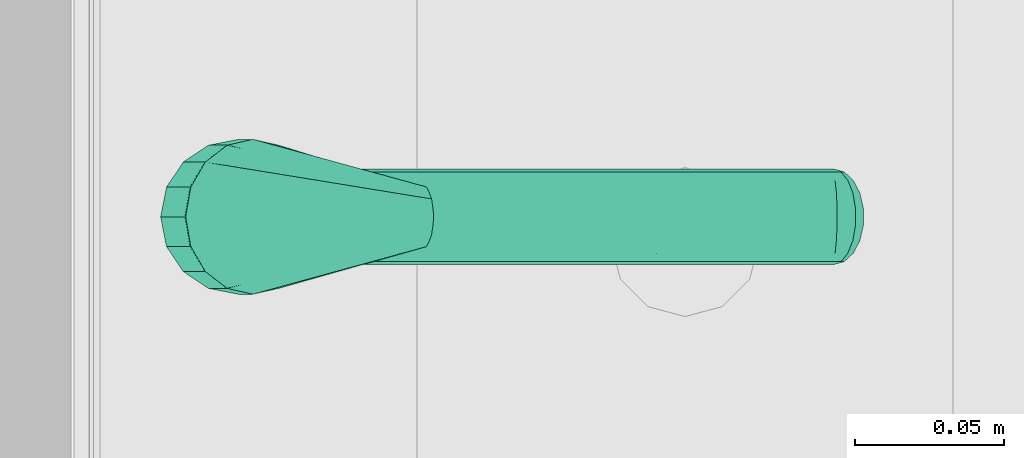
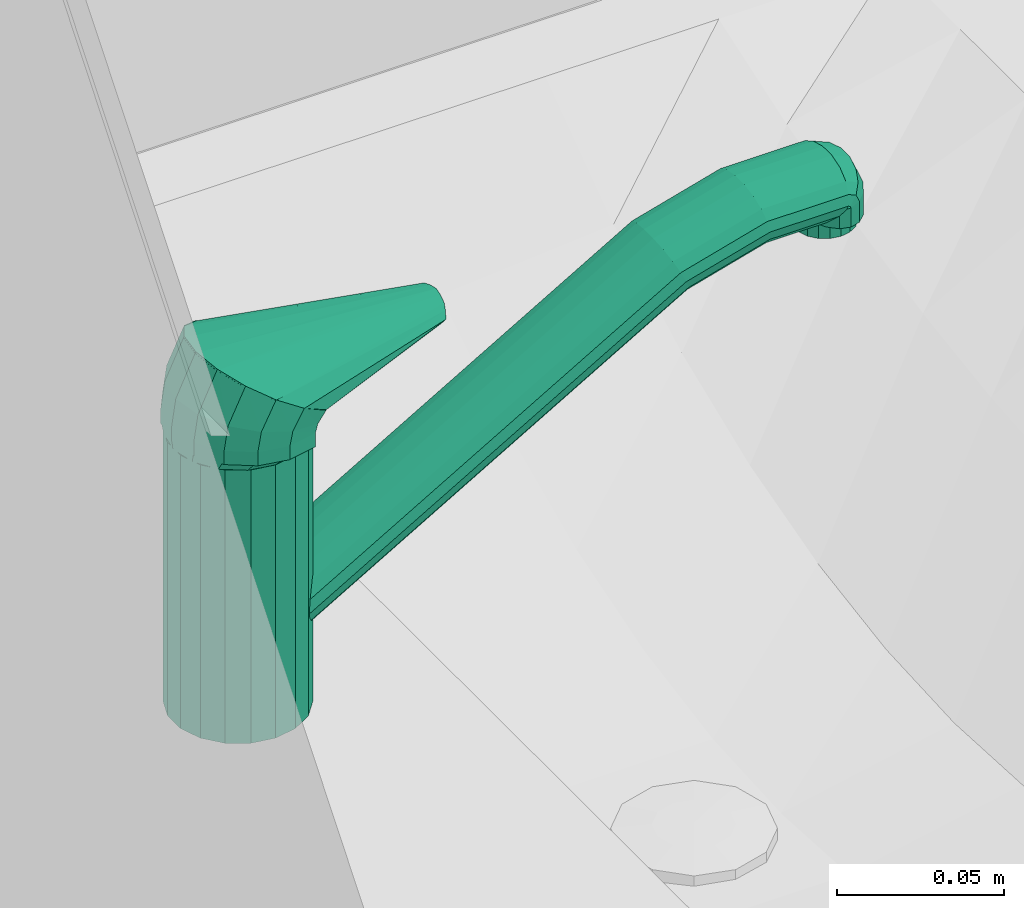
# One storey, part 79 of 127: 1 flow terminal.
"""IFC2X3 building model written with IfcOpenShell, lengths in millimetres."""

from ifc_helpers import new_model, entity, si_unit, converted_unit, derived_unit, money_unit, direction, frame, origin_with_axes, place, context, subcontext, project, spatial, open_shell, faceted_brep, surface_model, source, transform, mapped, type_object, element, save


model = new_model("IFC2X3")

# Units and contexts
model_context = context("Model", 3, precision=1e-05, world=origin_with_axes(), true_north=direction((0.0, 1.0)))
body_context = subcontext(model_context, "Body", "Model", "MODEL_VIEW")
ifc_project = project(units=[si_unit("LENGTHUNIT", "METRE", prefix="MILLI"), si_unit("AREAUNIT", "SQUARE_METRE"), si_unit("VOLUMEUNIT", "CUBIC_METRE"), converted_unit("PLANEANGLEUNIT", "DEGREE", entity("IfcPlaneAngleMeasure", 0.0174532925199), si_unit("PLANEANGLEUNIT", "RADIAN"), dimensions=[0, 0, 0, 0, 0, 0, 0]), si_unit("SOLIDANGLEUNIT", "STERADIAN"), money_unit("EUR"), converted_unit("TIMEUNIT", "Year", entity("IfcTimeMeasure", 31556926.0), si_unit("TIMEUNIT", "SECOND"), dimensions=[0, 0, 1, 0, 0, 0, 0]), si_unit("MASSUNIT", "GRAM", prefix="KILO"), si_unit("THERMODYNAMICTEMPERATUREUNIT", "DEGREE_CELSIUS"), si_unit("LUMINOUSINTENSITYUNIT", "LUMEN"), si_unit("ENERGYUNIT", "JOULE", prefix="MEGA"), derived_unit("THERMALCONDUCTANCEUNIT", [(si_unit("POWERUNIT", "WATT"), 1), (si_unit("LENGTHUNIT", "METRE"), -1), (si_unit("THERMODYNAMICTEMPERATUREUNIT", "KELVIN"), -1)]), derived_unit("SPECIFICHEATCAPACITYUNIT", [(si_unit("ENERGYUNIT", "JOULE"), 1), (si_unit("MASSUNIT", "GRAM", prefix="KILO"), -1), (si_unit("THERMODYNAMICTEMPERATUREUNIT", "KELVIN"), -1)]), derived_unit("MASSDENSITYUNIT", [(si_unit("MASSUNIT", "GRAM", prefix="KILO"), 1), (si_unit("VOLUMEUNIT", "CUBIC_METRE"), -1)])], contexts=[model_context])

# Site, building, storey
site_placement = place(None, origin_with_axes())
site = spatial("IfcSite", under=ifc_project, at=site_placement, Name="Site", CompositionType="ELEMENT")
building_placement = place(site_placement, origin_with_axes())
building = spatial("IfcBuilding", under=site, at=building_placement, Name="Building", CompositionType="ELEMENT")
storey_placement = place(building_placement, origin_with_axes())
storey = spatial("IfcBuildingStorey", under=building, at=storey_placement, Name="1 KORRUS", CompositionType="ELEMENT", Elevation=0.0)

# Flow terminal
sanitary_terminal_type = type_object("IfcSanitaryTerminalType", Name="Tap 22", PredefinedType="NOTDEFINED")
shared_shape = source(origin_with_axes(), body_context, "Body", "SurfaceModel", [
    faceted_brep([(-21.1430839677, -7.69545322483, 1000.0), (-22.5, 0.0, 1000.0), (-21.1430839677, 7.69545322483, 1000.0), (-17.2359999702, 14.4627212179, 1000.0), (-11.25, 19.4855715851, 1000.0), (-3.90708399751, 22.1581744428, 1000.0), (3.90708399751, 22.1581744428, 1000.0), (11.25, 19.4855715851, 1000.0), (17.2359999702, 14.4627212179, 1000.0), (21.1430839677, 7.69545322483, 1000.0), (22.5, 0.0, 1000.0), (21.1430839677, -7.69545322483, 1000.0), (17.2359999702, -14.4627212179, 1000.0), (11.25, -19.4855715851, 1000.0), (3.90708399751, -22.1581744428, 1000.0), (-3.90708399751, -22.1581744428, 1000.0), (-11.25, -19.4855715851, 1000.0), (-17.2359999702, -14.4627212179, 1000.0), (-21.1430839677, -7.69545322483, 1010.0), (-22.5, 0.0, 1010.0), (-21.1430839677, 7.69545322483, 1010.0), (-17.2359999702, 14.4627212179, 1010.0), (-11.25, 19.4855715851, 1010.0), (-3.90708399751, 22.1581744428, 1010.0), (3.90708399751, 22.1581744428, 1010.0), (11.25, 19.4855715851, 1010.0), (17.2359999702, 14.4627212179, 1010.0), (21.1430839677, 7.69545322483, 1010.0), (22.5, 0.0, 1010.0), (21.1430839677, -7.69545322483, 1010.0), (17.2359999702, -14.4627212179, 1010.0), (11.25, -19.4855715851, 1010.0), (3.90708399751, -22.1581744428, 1010.0), (-3.90708399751, -22.1581744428, 1010.0), (-11.25, -19.4855715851, 1010.0), (-17.2359999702, -14.4627212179, 1010.0)], [[[0, 1, 2, 3, 4, 5, 6, 7, 8, 9, 10, 11, 12, 13, 14, 15, 16, 17]], [[0, 18, 19, 1]], [[1, 19, 20, 2]], [[2, 20, 21, 3]], [[3, 21, 22, 4]], [[4, 22, 23, 5]], [[5, 23, 24, 6]], [[6, 24, 25, 7]], [[7, 25, 26, 8]], [[8, 26, 27, 9]], [[9, 27, 28, 10]], [[10, 28, 29, 11]], [[11, 29, 30, 12]], [[12, 30, 31, 13]], [[13, 31, 32, 14]], [[14, 32, 33, 15]], [[15, 33, 34, 16]], [[16, 34, 35, 17]], [[17, 35, 18, 0]], [[18, 35, 34, 33, 32, 31, 30, 29, 28, 27, 26, 25, 24, 23, 22, 21, 20, 19]]]),
    faceted_brep([(-21.1430839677, -7.69545322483, 1010.0), (-22.5, 0.0, 1010.0), (-21.1430839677, 7.69545322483, 1010.0), (-17.2359999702, 14.4627212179, 1010.0), (-11.25, 19.4855715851, 1010.0), (-3.90708399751, 22.1581744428, 1010.0), (3.90708399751, 22.1581744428, 1010.0), (11.25, 19.4855715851, 1010.0), (17.2359999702, 14.4627212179, 1010.0), (21.1430839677, 7.69545322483, 1010.0), (22.5, 0.0, 1010.0), (21.1430839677, -7.69545322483, 1010.0), (17.2359999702, -14.4627212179, 1010.0), (11.25, -19.4855715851, 1010.0), (3.90708399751, -22.1581744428, 1010.0), (-3.90708399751, -22.1581744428, 1010.0), (-11.25, -19.4855715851, 1010.0), (-17.2359999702, -14.4627212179, 1010.0), (-21.1430839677, -7.69545322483, 1055.0), (-22.5, 0.0, 1055.0), (-21.1430839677, 7.69545322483, 1055.0), (-17.2359999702, 14.4627212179, 1055.0), (-11.25, 19.4855715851, 1055.0), (-3.90708399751, 22.1581744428, 1055.0), (3.90708399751, 22.1581744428, 1055.0), (11.25, 19.4855715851, 1055.0), (17.2359999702, 14.4627212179, 1055.0), (21.1430839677, 7.69545322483, 1055.0), (22.5, 0.0, 1055.0), (21.1430839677, -7.69545322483, 1055.0), (17.2359999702, -14.4627212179, 1055.0), (11.25, -19.4855715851, 1055.0), (3.90708399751, -22.1581744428, 1055.0), (-3.90708399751, -22.1581744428, 1055.0), (-11.25, -19.4855715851, 1055.0), (-17.2359999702, -14.4627212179, 1055.0)], [[[0, 1, 2, 3, 4, 5, 6, 7, 8, 9, 10, 11, 12, 13, 14, 15, 16, 17]], [[0, 18, 19, 1]], [[1, 19, 20, 2]], [[2, 20, 21, 3]], [[3, 21, 22, 4]], [[4, 22, 23, 5]], [[5, 23, 24, 6]], [[6, 24, 25, 7]], [[7, 25, 26, 8]], [[8, 26, 27, 9]], [[9, 27, 28, 10]], [[10, 28, 29, 11]], [[11, 29, 30, 12]], [[12, 30, 31, 13]], [[13, 31, 32, 14]], [[14, 32, 33, 15]], [[15, 33, 34, 16]], [[16, 34, 35, 17]], [[17, 35, 18, 0]], [[18, 35, 34, 33, 32, 31, 30, 29, 28, 27, 26, 25, 24, 23, 22, 21, 20, 19]]]),
    faceted_brep([(-21.1430839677, -7.69545322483, 1055.0), (-22.5, 0.0, 1055.0), (-21.1430839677, 7.69545322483, 1055.0), (-17.2359999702, 14.4627212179, 1055.0), (-11.25, 19.4855715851, 1055.0), (-3.90708399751, 22.1581744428, 1055.0), (3.90708399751, 22.1581744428, 1055.0), (11.25, 19.4855715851, 1055.0), (17.2359999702, 14.4627212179, 1055.0), (21.1430839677, 7.69545322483, 1055.0), (22.5, 0.0, 1055.0), (21.1430839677, -7.69545322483, 1055.0), (17.2359999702, -14.4627212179, 1055.0), (11.25, -19.4855715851, 1055.0), (3.90708399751, -22.1581744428, 1055.0), (-3.90708399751, -22.1581744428, 1055.0), (-11.25, -19.4855715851, 1055.0), (-17.2359999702, -14.4627212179, 1055.0), (-21.1430839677, -7.69545322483, 1100.0), (-22.5, 0.0, 1100.0), (-21.1430839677, 7.69545322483, 1100.0), (-17.2359999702, 14.4627212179, 1100.0), (-11.25, 19.4855715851, 1100.0), (-3.90708399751, 22.1581744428, 1100.0), (3.90708399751, 22.1581744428, 1100.0), (11.25, 19.4855715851, 1100.0), (17.2359999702, 14.4627212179, 1100.0), (21.1430839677, 7.69545322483, 1100.0), (22.5, 0.0, 1100.0), (21.1430839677, -7.69545322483, 1100.0), (17.2359999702, -14.4627212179, 1100.0), (11.25, -19.4855715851, 1100.0), (3.90708399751, -22.1581744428, 1100.0), (-3.90708399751, -22.1581744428, 1100.0), (-11.25, -19.4855715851, 1100.0), (-17.2359999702, -14.4627212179, 1100.0)], [[[0, 1, 2, 3, 4, 5, 6, 7, 8, 9, 10, 11, 12, 13, 14, 15, 16, 17]], [[0, 18, 19, 1]], [[1, 19, 20, 2]], [[2, 20, 21, 3]], [[3, 21, 22, 4]], [[4, 22, 23, 5]], [[5, 23, 24, 6]], [[6, 24, 25, 7]], [[7, 25, 26, 8]], [[8, 26, 27, 9]], [[9, 27, 28, 10]], [[10, 28, 29, 11]], [[11, 29, 30, 12]], [[12, 30, 31, 13]], [[13, 31, 32, 14]], [[14, 32, 33, 15]], [[15, 33, 34, 16]], [[16, 34, 35, 17]], [[17, 35, 18, 0]], [[18, 35, 34, 33, 32, 31, 30, 29, 28, 27, 26, 25, 24, 23, 22, 21, 20, 19]]]),
    surface_model("IfcShellBasedSurfaceModel", [(-20.7872894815, -8.61037722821, 1100.0), (-24.0208678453, -12.9497692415, 1104.5), (-26.0, -3.0, 1104.5), (-22.5, 0.0, 1100.0), (-15.9099025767, -15.9099025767, 1100.0), (-24.0208678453, -12.9497692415, 1104.5), (-24.0208678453, 6.94976924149, 1104.5), (-20.7872894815, 8.61037722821, 1100.0), (-8.61037722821, -20.7872894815, 1100.0), (-18.3847763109, 15.3847763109, 1104.5), (-15.9099025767, 15.9099025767, 1100.0), (0.0, -25.1, 1104.5), (-9.94976924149, 21.0208678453, 1104.5), (-8.61037722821, 20.7872894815, 1100.0), (0.0, -22.5, 1100.0), (0.0, 23.0, 1104.5), (0.0, 22.5, 1100.0), (8.61037722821, -20.7872894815, 1100.0), (9.94976924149, 21.0208678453, 1104.5), (8.61037722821, 20.7872894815, 1100.0), (15.9099025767, -15.9099025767, 1100.0), (18.3847763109, 15.3847763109, 1104.5), (15.9099025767, 15.9099025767, 1100.0), (24.0208678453, -12.9497692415, 1104.5), (24.0208678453, 6.94976924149, 1104.5), (20.7872894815, 8.61037722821, 1100.0), (20.7872894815, -8.61037722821, 1100.0), (26.0, -3.0, 1104.5), (22.5, 0.0, 1100.0)], [open_shell([[[0, 1, 2, 3]], [[4, 5, 1, 0]], [[3, 2, 6, 7]], [[8, 5, 4]], [[7, 6, 9, 10]], [[8, 11, 5]], [[10, 9, 12, 13]], [[14, 11, 8]], [[13, 12, 15, 16]], [[17, 11, 14]], [[16, 15, 18, 19]], [[20, 11, 17]], [[19, 18, 21, 22]], [[20, 23, 11]], [[22, 21, 24, 25]], [[26, 23, 20]], [[25, 24, 27, 28]], [[28, 27, 23, 26]]])]),
    surface_model("IfcShellBasedSurfaceModel", [(-24.0208678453, -12.9497692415, 1103.0), (-24.0208678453, -12.9497692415, 1108.0), (-26.0, -3.0, 1108.0), (-24.0208678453, -12.9497692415, 1103.0), (-26.0, -4.0, 1113.0), (-26.0, -3.0, 1103.0), (-24.0208678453, -12.9497692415, 1108.0), (-24.0208678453, 5.75655144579, 1114.95131029), (-24.0208678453, -13.7565514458, 1111.04868971), (-24.0208678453, 6.94976924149, 1108.0), (0.0, -25.1, 1103.0), (-24.0208678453, 0.638818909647, 1124.93646795), (-26.0, -8.0, 1120.0), (-24.0208678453, 6.94976924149, 1103.0), (0.0, -25.1, 1108.0), (-24.0208678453, -13.7565514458, 1111.04868971), (-18.3847763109, 7.96245595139, 1129.1214034), (-18.3847763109, 14.0277563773, 1116.60555128), (-24.0208678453, -16.6388189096, 1115.06353205), (-18.3847763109, 15.3847763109, 1108.0), (24.0208678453, -12.9497692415, 1103.0), (-18.3847763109, 15.3847763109, 1103.0), (24.0208678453, -12.9497692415, 1108.0), (0.0, -25.6708329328, 1108.66583341), (-24.0208678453, -16.6388189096, 1115.06353205), (-9.94976924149, 12.8559537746, 1131.91768787), (-9.94976924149, 19.5543988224, 1117.71087976), (-9.94976924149, 21.0208678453, 1108.0), (26.0, -3.0, 1103.0), (-9.94976924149, 21.0208678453, 1103.0), (26.0, -3.0, 1108.0), (24.0208678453, -13.7565514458, 1111.04868971), (0.0, -27.188173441, 1109.03532946), (0.0, 14.5743216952, 1132.8996124), (0.0, 21.495097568, 1118.09901951), (0.0, 23.0, 1108.0), (24.0208678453, 6.94976924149, 1103.0), (0.0, 23.0, 1103.0), (24.0208678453, 6.94976924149, 1108.0), (26.0, -4.0, 1113.0), (24.0208678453, -16.6388189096, 1115.06353205), (9.94976924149, 12.8559537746, 1131.91768787), (9.94976924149, 19.5543988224, 1117.71087976), (9.94976924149, 21.0208678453, 1108.0), (18.3847763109, 15.3847763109, 1103.0), (9.94976924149, 21.0208678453, 1103.0), (18.3847763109, 15.3847763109, 1108.0), (24.0208678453, 5.75655144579, 1114.95131029), (26.0, -8.0, 1120.0), (18.3847763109, 7.96245595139, 1129.1214034), (18.3847763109, 14.0277563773, 1116.60555128), (24.0208678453, 0.638818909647, 1124.93646795)], [open_shell([[[0, 1, 2]], [[1, 0, 3]], [[4, 2, 1]], [[2, 5, 0]], [[3, 6, 1]], [[2, 4, 7]], [[1, 8, 4]], [[5, 2, 9]], [[6, 3, 10]], [[8, 1, 6]], [[11, 7, 4]], [[7, 9, 2]], [[12, 4, 8]], [[9, 13, 5]], [[10, 14, 6]], [[6, 15, 8]], [[7, 11, 16]], [[4, 12, 11]], [[9, 7, 17]], [[8, 18, 12]], [[13, 9, 19]], [[14, 10, 20]], [[15, 6, 14]], [[18, 8, 15]], [[16, 17, 7]], [[17, 19, 9]], [[19, 21, 13]], [[20, 22, 14]], [[14, 23, 15]], [[15, 24, 18]], [[17, 16, 25]], [[19, 17, 26]], [[21, 19, 27]], [[22, 20, 28]], [[23, 14, 22]], [[24, 15, 23]], [[25, 26, 17]], [[26, 27, 19]], [[27, 29, 21]], [[28, 30, 22]], [[22, 31, 23]], [[23, 32, 24]], [[26, 25, 33]], [[27, 26, 34]], [[29, 27, 35]], [[30, 28, 36]], [[31, 22, 30]], [[32, 23, 31]], [[33, 34, 26]], [[34, 35, 27]], [[35, 37, 29]], [[36, 38, 30]], [[30, 39, 31]], [[31, 40, 32]], [[34, 33, 41]], [[35, 34, 42]], [[37, 35, 43]], [[38, 36, 44]], [[39, 30, 38]], [[40, 31, 39]], [[41, 42, 34]], [[42, 43, 35]], [[43, 45, 37]], [[44, 46, 38]], [[38, 47, 39]], [[39, 48, 40]], [[42, 41, 49]], [[43, 42, 50]], [[45, 43, 46]], [[46, 44, 45]], [[47, 38, 46]], [[48, 39, 47]], [[49, 50, 42]], [[50, 46, 43]], [[46, 50, 47]], [[47, 51, 48]], [[50, 49, 51]], [[51, 47, 50]]])]),
    surface_model("IfcShellBasedSurfaceModel", [(-24.0208678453, -16.7440274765, 1115.25238044), (-10.0, -66.2556184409, 1122.50657537), (-26.0, -8.0, 1120.0), (-9.0, -65.3013009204, 1120.74894114), (-8.0, -67.2099359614, 1124.26420959), (0.0, -27.4218581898, 1109.4547914), (0.0, -63.8698246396, 1118.1124898), (9.0, -65.3013009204, 1120.74894114), (10.0, -66.2556184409, 1122.50657537), (8.0, -67.2099359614, 1124.26420959), (6.0, -67.9256741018, 1125.58243526), (3.0, -68.4028328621, 1126.46125237), (0.0, -68.6414122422, 1126.90066093), (-3.0, -68.4028328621, 1126.46125237), (-6.0, -67.9256741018, 1125.58243526), (-24.0208678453, 0.744027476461, 1124.74761956), (24.0208678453, -16.7440274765, 1115.25238044), (26.0, -8.0, 1120.0), (24.0208678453, 0.744027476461, 1124.74761956), (18.3847763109, 8.15685603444, 1128.77245707), (9.94976924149, 13.1099497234, 1131.46176752), (0.0, 14.8492449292, 1132.40612777), (-9.94976924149, 13.1099497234, 1131.46176752), (-18.3847763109, 8.15685603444, 1128.77245707)], [open_shell([[[0, 1, 2]], [[0, 3, 1]], [[2, 1, 4]], [[5, 3, 0]], [[3, 6, 7, 8, 9, 10, 11, 12, 13, 14, 4, 1]], [[2, 4, 15]], [[5, 6, 3]], [[16, 7, 6]], [[17, 8, 7]], [[18, 9, 8]], [[19, 10, 9]], [[20, 11, 10]], [[21, 12, 11]], [[22, 13, 12]], [[23, 14, 13]], [[15, 4, 14]], [[16, 6, 5]], [[17, 7, 16]], [[18, 8, 17]], [[19, 9, 18]], [[20, 10, 19]], [[21, 11, 20]], [[22, 12, 21]], [[23, 13, 22]], [[15, 14, 23]]])]),
    surface_model("IfcShellBasedSurfaceModel", [(-16.0, -15.0, 1035.8), (-16.0, -146.0, 1112.0), (-15.0350819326, -144.663324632, 1115.17921593), (-15.0350819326, -13.350271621, 1038.79711945), (-15.0350819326, -16.649728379, 1032.80288055), (-15.0350819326, -147.336675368, 1108.82078407), (-16.0, -175.0, 1120.0), (-15.0350819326, -174.536897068, 1123.42020143), (-12.2567110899, -143.487872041, 1117.97497151), (-12.2567110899, -11.8995248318, 1041.43274206), (-12.2567110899, -18.1004751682, 1030.16725794), (-12.2567110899, -148.512127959, 1106.02502849), (-15.0350819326, -175.463102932, 1116.57979857), (-16.0, -202.0, 1120.0), (-15.0350819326, -202.702022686, 1123.42020143), (-12.2567110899, -174.129651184, 1126.4278761), (-8.0, -142.615419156, 1120.05005733), (-8.0, -10.8227411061, 1043.38897285), (-8.0, -19.1772588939, 1028.21102715), (-8.0, -149.384580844, 1103.94994267), (-12.2567110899, -175.870348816, 1113.5721239), (-15.0350819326, -201.297977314, 1116.57979857), (-16.0, -202.7, 1119.7), (-15.0350819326, -205.304747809, 1122.30474781), (-12.2567110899, -203.319371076, 1126.4278761), (-8.0, -173.827382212, 1128.66025404), (-2.77837084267, -142.151196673, 1121.15418744), (-2.77837084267, -10.2497964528, 1044.42986151), (-2.77837084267, -19.7502035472, 1027.17013849), (-2.77837084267, -149.848803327, 1102.84581256), (-8.0, -176.172617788, 1111.33974596), (-12.2567110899, -200.680628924, 1113.5721239), (-15.0350819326, -200.095252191, 1117.09525219), (-16.0, -203.0, 1119.0), (-15.0350819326, -206.420201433, 1119.70202269), (-12.2567110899, -207.595324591, 1124.59532459), (-8.0, -203.777583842, 1128.66025404), (-2.77837084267, -173.666548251, 1129.84807753), (2.77837084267, -142.151196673, 1121.15418744), (2.77837084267, -10.2497964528, 1044.42986151), (2.77837084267, -19.7502035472, 1027.17013849), (2.77837084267, -149.848803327, 1102.84581256), (-2.77837084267, -176.333451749, 1110.15192247), (-8.0, -200.222416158, 1111.33974596), (-12.2567110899, -197.804675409, 1114.80467541), (-15.0350819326, -199.579798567, 1118.29797731), (-16.0, -203.0, 1112.0), (-15.0350819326, -206.420201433, 1112.0), (-12.2567110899, -209.427876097, 1120.31937108), (-8.0, -209.295452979, 1126.29545298), (-2.77837084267, -204.021393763, 1129.84807753), (2.77837084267, -173.666548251, 1129.84807753), (8.0, -142.615419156, 1120.05005733), (8.0, -10.8227411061, 1043.38897285), (8.0, -19.1772588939, 1028.21102715), (8.0, -149.384580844, 1103.94994267), (2.77837084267, -176.333451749, 1110.15192247), (-2.77837084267, -199.978606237, 1110.15192247), (-8.0, -196.104547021, 1113.10454702), (-12.2567110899, -196.572123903, 1117.68062892), (-15.0350819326, -199.579798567, 1112.0), (-12.2567110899, -196.572123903, 1112.0), (-8.0, -194.339745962, 1112.0), (-2.77837084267, -193.15192247, 1112.0), (2.77837084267, -193.15192247, 1112.0), (8.0, -194.339745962, 1112.0), (12.2567110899, -196.572123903, 1112.0), (15.0350819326, -199.579798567, 1112.0), (16.0, -203.0, 1112.0), (15.0350819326, -206.420201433, 1112.0), (12.2567110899, -209.427876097, 1112.0), (8.0, -211.660254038, 1112.0), (2.77837084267, -212.84807753, 1112.0), (-2.77837084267, -212.84807753, 1112.0), (-8.0, -211.660254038, 1112.0), (-12.2567110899, -209.427876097, 1112.0), (-8.0, -211.660254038, 1120.77758384), (-2.77837084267, -210.2000724, 1127.2000724), (2.77837084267, -204.021393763, 1129.84807753), (8.0, -173.827382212, 1128.66025404), (12.2567110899, -143.487872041, 1117.97497151), (12.2567110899, -11.8995248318, 1041.43274206), (12.2567110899, -18.1004751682, 1030.16725794), (12.2567110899, -148.512127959, 1106.02502849), (8.0, -176.172617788, 1111.33974596), (2.77837084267, -199.978606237, 1110.15192247), (-2.77837084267, -195.1999276, 1112.1999276), (-8.0, -194.339745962, 1117.22241616), (-2.77837084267, -193.15192247, 1116.97860624), (2.77837084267, -193.15192247, 1116.97860624), (8.0, -194.339745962, 1117.22241616), (12.2567110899, -196.572123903, 1117.68062892), (15.0350819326, -199.579798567, 1118.29797731), (16.0, -203.0, 1119.0), (15.0350819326, -206.420201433, 1119.70202269), (12.2567110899, -209.427876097, 1120.31937108), (8.0, -211.660254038, 1120.77758384), (2.77837084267, -212.84807753, 1121.02139376), (-2.77837084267, -212.84807753, 1121.02139376), (2.77837084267, -210.2000724, 1127.2000724), (8.0, -203.777583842, 1128.66025404), (12.2567110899, -174.129651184, 1126.4278761), (15.0350819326, -144.663324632, 1115.17921593), (15.0350819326, -13.350271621, 1038.79711945), (15.0350819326, -16.649728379, 1032.80288055), (15.0350819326, -147.336675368, 1108.82078407), (12.2567110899, -175.870348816, 1113.5721239), (8.0, -200.222416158, 1111.33974596), (2.77837084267, -195.1999276, 1112.1999276), (8.0, -196.104547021, 1113.10454702), (12.2567110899, -197.804675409, 1114.80467541), (15.0350819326, -200.095252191, 1117.09525219), (16.0, -202.7, 1119.7), (15.0350819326, -205.304747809, 1122.30474781), (12.2567110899, -207.595324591, 1124.59532459), (8.0, -209.295452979, 1126.29545298), (12.2567110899, -203.319371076, 1126.4278761), (15.0350819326, -174.536897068, 1123.42020143), (16.0, -146.0, 1112.0), (16.0, -15.0, 1035.8), (15.0350819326, -175.463102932, 1116.57979857), (12.2567110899, -200.680628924, 1113.5721239), (15.0350819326, -201.297977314, 1116.57979857), (16.0, -202.0, 1120.0), (15.0350819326, -202.702022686, 1123.42020143), (16.0, -175.0, 1120.0)], [open_shell([[[0, 1, 2, 3]], [[4, 5, 1, 0]], [[1, 6, 7, 2]], [[3, 2, 8, 9]], [[10, 11, 5, 4]], [[5, 12, 6, 1]], [[6, 13, 14, 7]], [[2, 7, 15, 8]], [[9, 8, 16, 17]], [[18, 19, 11, 10]], [[11, 20, 12, 5]], [[12, 21, 13, 6]], [[13, 22, 23, 14]], [[7, 14, 24, 15]], [[8, 15, 25, 16]], [[17, 16, 26, 27]], [[28, 29, 19, 18]], [[19, 30, 20, 11]], [[20, 31, 21, 12]], [[21, 32, 22, 13]], [[22, 33, 34, 23]], [[14, 23, 35, 24]], [[15, 24, 36, 25]], [[16, 25, 37, 26]], [[27, 26, 38, 39]], [[40, 41, 29, 28]], [[29, 42, 30, 19]], [[30, 43, 31, 20]], [[31, 44, 32, 21]], [[32, 45, 33, 22]], [[33, 46, 47, 34]], [[23, 34, 48, 35]], [[24, 35, 49, 36]], [[25, 36, 50, 37]], [[26, 37, 51, 38]], [[39, 38, 52, 53]], [[54, 55, 41, 40]], [[41, 56, 42, 29]], [[42, 57, 43, 30]], [[43, 58, 44, 31]], [[44, 59, 45, 32]], [[45, 60, 46, 33]], [[46, 60, 61, 62, 63, 64, 65, 66, 67, 68, 69, 70, 71, 72, 73, 74, 75, 47]], [[34, 47, 75, 48]], [[35, 48, 76, 49]], [[36, 49, 77, 50]], [[37, 50, 78, 51]], [[38, 51, 79, 52]], [[53, 52, 80, 81]], [[82, 83, 55, 54]], [[55, 84, 56, 41]], [[56, 85, 57, 42]], [[57, 86, 58, 43]], [[58, 87, 59, 44]], [[59, 61, 60, 45]], [[87, 62, 61, 59]], [[88, 63, 62, 87]], [[89, 64, 63, 88]], [[90, 65, 64, 89]], [[91, 66, 65, 90]], [[92, 67, 66, 91]], [[93, 68, 67, 92]], [[94, 69, 68, 93]], [[95, 70, 69, 94]], [[96, 71, 70, 95]], [[97, 72, 71, 96]], [[98, 73, 72, 97]], [[76, 74, 73, 98]], [[48, 75, 74, 76]], [[49, 76, 98, 77]], [[50, 77, 99, 78]], [[51, 78, 100, 79]], [[52, 79, 101, 80]], [[81, 80, 102, 103]], [[104, 105, 83, 82]], [[83, 106, 84, 55]], [[84, 107, 85, 56]], [[85, 108, 86, 57]], [[86, 88, 87, 58]], [[108, 89, 88, 86]], [[109, 90, 89, 108]], [[110, 91, 90, 109]], [[111, 92, 91, 110]], [[112, 93, 92, 111]], [[113, 94, 93, 112]], [[114, 95, 94, 113]], [[115, 96, 95, 114]], [[99, 97, 96, 115]], [[77, 98, 97, 99]], [[78, 99, 115, 100]], [[79, 100, 116, 101]], [[80, 101, 117, 102]], [[103, 102, 118, 119]], [[119, 118, 105, 104]], [[105, 120, 106, 83]], [[106, 121, 107, 84]], [[107, 109, 108, 85]], [[121, 110, 109, 107]], [[122, 111, 110, 121]], [[123, 112, 111, 122]], [[124, 113, 112, 123]], [[116, 114, 113, 124]], [[100, 115, 114, 116]], [[101, 116, 124, 117]], [[102, 117, 125, 118]], [[118, 125, 120, 105]], [[120, 122, 121, 106]], [[125, 123, 122, 120]], [[117, 124, 123, 125]]])]),
    faceted_brep([(-9.39692620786, -199.579798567, 1112.0), (-10.0, -203.0, 1112.0), (-9.39692620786, -206.420201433, 1112.0), (-7.66044443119, -209.427876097, 1112.0), (-5.0, -211.660254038, 1112.0), (-1.73648177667, -212.84807753, 1112.0), (1.73648177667, -212.84807753, 1112.0), (5.0, -211.660254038, 1112.0), (7.66044443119, -209.427876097, 1112.0), (9.39692620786, -206.420201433, 1112.0), (10.0, -203.0, 1112.0), (9.39692620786, -199.579798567, 1112.0), (7.66044443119, -196.572123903, 1112.0), (5.0, -194.339745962, 1112.0), (1.73648177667, -193.15192247, 1112.0), (-1.73648177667, -193.15192247, 1112.0), (-5.0, -194.339745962, 1112.0), (-7.66044443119, -196.572123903, 1112.0), (-9.39692620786, -199.579798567, 1105.0), (-10.0, -203.0, 1105.0), (-9.39692620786, -206.420201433, 1105.0), (-7.66044443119, -209.427876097, 1105.0), (-5.0, -211.660254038, 1105.0), (-1.73648177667, -212.84807753, 1105.0), (1.73648177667, -212.84807753, 1105.0), (5.0, -211.660254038, 1105.0), (7.66044443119, -209.427876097, 1105.0), (9.39692620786, -206.420201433, 1105.0), (10.0, -203.0, 1105.0), (9.39692620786, -199.579798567, 1105.0), (7.66044443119, -196.572123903, 1105.0), (5.0, -194.339745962, 1105.0), (1.73648177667, -193.15192247, 1105.0), (-1.73648177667, -193.15192247, 1105.0), (-5.0, -194.339745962, 1105.0), (-7.66044443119, -196.572123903, 1105.0)], [[[0, 1, 2, 3, 4, 5, 6, 7, 8, 9, 10, 11, 12, 13, 14, 15, 16, 17]], [[0, 18, 19, 1]], [[1, 19, 20, 2]], [[2, 20, 21, 3]], [[3, 21, 22, 4]], [[4, 22, 23, 5]], [[5, 23, 24, 6]], [[6, 24, 25, 7]], [[7, 25, 26, 8]], [[8, 26, 27, 9]], [[9, 27, 28, 10]], [[10, 28, 29, 11]], [[11, 29, 30, 12]], [[12, 30, 31, 13]], [[13, 31, 32, 14]], [[14, 32, 33, 15]], [[15, 33, 34, 16]], [[16, 34, 35, 17]], [[17, 35, 18, 0]], [[18, 35, 34, 33, 32, 31, 30, 29, 28, 27, 26, 25, 24, 23, 22, 21, 20, 19]]]),
])
flow_terminal_placement = place(storey_placement, frame((11669.7836854, 62478.520957, 40.0), z_axis=(0.0, 0.0, 1.0), x_axis=(0.0, 1.0, 0.0)))
element("IfcFlowTerminal", 1, at=flow_terminal_placement, inside=storey, type_object=sanitary_terminal_type, Name="Valamu", context=body_context, shape_type="MappedRepresentation", body=[
    mapped(shared_shape, transform((0.0, 0.0, 0.0))),
])

save(model, "model.ifc")
